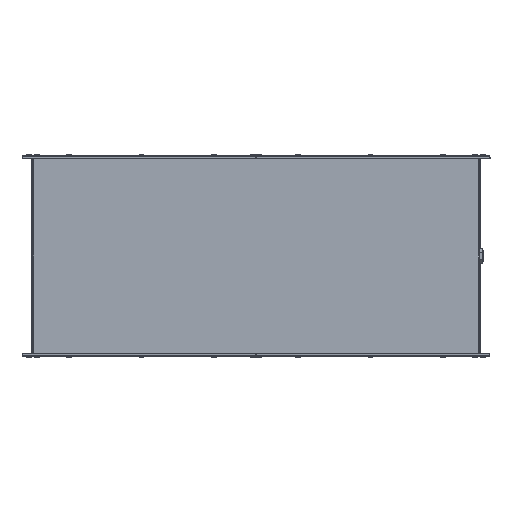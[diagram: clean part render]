
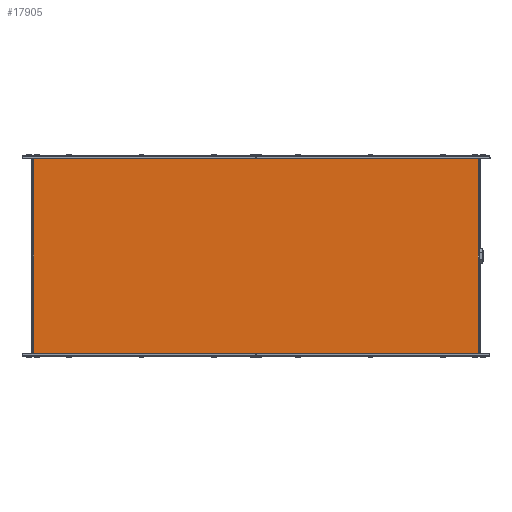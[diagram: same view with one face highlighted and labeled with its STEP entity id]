
A CAD part, front view. The second image highlights one B-rep face of the part: STEP entity #17905.
In plain terms, the highlighted planar face has unit normal (0, -1, 0).
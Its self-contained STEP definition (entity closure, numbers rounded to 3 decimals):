
#467 = DIRECTION ( 'NONE',  ( 0., 0., -1. ) ) ;
#522 = DIRECTION ( 'NONE',  ( -1., 0., 0. ) ) ;
#635 = CARTESIAN_POINT ( 'NONE',  ( 397.8, -0.8, 178. ) ) ;
#647 = CARTESIAN_POINT ( 'NONE',  ( -397.8, -0.8, 180. ) ) ;
#2923 = EDGE_CURVE ( 'NONE', #26206, #7848, #11515, .T. ) ;
#2926 = EDGE_CURVE ( 'NONE', #7848, #8085, #11498, .T. ) ;
#7848 = VERTEX_POINT ( 'NONE', #21540 ) ;
#8085 = VERTEX_POINT ( 'NONE', #21307 ) ;
#10322 = FACE_OUTER_BOUND ( 'NONE', #22211, .T. ) ;
#11496 = VECTOR ( 'NONE', #467, 1000. ) ;
#11498 = LINE ( 'NONE', #647, #11496 ) ;
#11503 = VECTOR ( 'NONE', #522, 1000. ) ;
#11515 = LINE ( 'NONE', #635, #11503 ) ;
#12714 = ORIENTED_EDGE ( 'NONE', *, *, #2926, .T. ) ;
#13839 = ORIENTED_EDGE ( 'NONE', *, *, #17198, .T. ) ;
#13929 = ORIENTED_EDGE ( 'NONE', *, *, #2923, .T. ) ;
#14621 = ORIENTED_EDGE ( 'NONE', *, *, #17188, .T. ) ;
#17188 = EDGE_CURVE ( 'NONE', #30278, #26206, #33140, .T. ) ;
#17198 = EDGE_CURVE ( 'NONE', #8085, #30278, #33103, .T. ) ;
#17905 = ADVANCED_FACE ( 'NONE', ( #10322 ), #20206, .F. ) ;
#20204 = CARTESIAN_POINT ( 'NONE',  ( 0., -0.8, 0. ) ) ;
#20206 = PLANE ( 'NONE',  #27726 ) ;
#20209 = DIRECTION ( 'NONE',  ( 0., 1., 0. ) ) ;
#20210 = DIRECTION ( 'NONE',  ( 0., 0., -1. ) ) ;
#21307 = CARTESIAN_POINT ( 'NONE',  ( -397.8, -0.8, -178. ) ) ;
#21540 = CARTESIAN_POINT ( 'NONE',  ( -397.8, -0.8, 178. ) ) ;
#22211 = EDGE_LOOP ( 'NONE', ( #13929, #12714, #13839, #14621 ) ) ;
#26206 = VERTEX_POINT ( 'NONE', #32265 ) ;
#27726 = AXIS2_PLACEMENT_3D ( 'NONE', #20204, #20209, #20210 ) ;
#30278 = VERTEX_POINT ( 'NONE', #32463 ) ;
#31813 = DIRECTION ( 'NONE',  ( 0., 0., 1. ) ) ;
#31985 = CARTESIAN_POINT ( 'NONE',  ( 397.8, -0.8, -180. ) ) ;
#32265 = CARTESIAN_POINT ( 'NONE',  ( 397.8, -0.8, 178. ) ) ;
#32424 = DIRECTION ( 'NONE',  ( 1., 0., 0. ) ) ;
#32451 = CARTESIAN_POINT ( 'NONE',  ( -397.8, -0.8, -178. ) ) ;
#32463 = CARTESIAN_POINT ( 'NONE',  ( 397.8, -0.8, -178. ) ) ;
#33101 = VECTOR ( 'NONE', #32424, 1000. ) ;
#33103 = LINE ( 'NONE', #32451, #33101 ) ;
#33111 = VECTOR ( 'NONE', #31813, 1000. ) ;
#33140 = LINE ( 'NONE', #31985, #33111 ) ;
